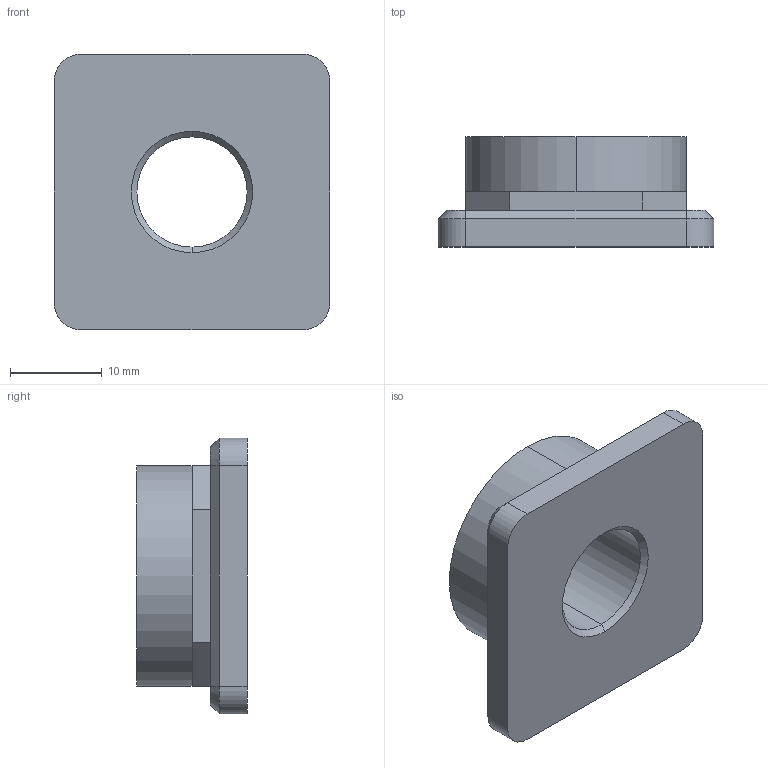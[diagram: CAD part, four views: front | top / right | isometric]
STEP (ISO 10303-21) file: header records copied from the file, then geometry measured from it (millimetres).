
FILE_DESCRIPTION (( 'STEP AP203' ), '1' );
FILE_NAME ('34670.W0032.step', '2017-06-26T08:12:43', ( 'User' ), ( '' ), 'SwSTEP 2.0', 'SolidWorks 2009', '' );
FILE_SCHEMA (( 'CONFIG_CONTROL_DESIGN' ));
Length unit declared in the file: millimetre
Products named in the file (1): 34670.W0032
Bounding box: 30 x 12 x 30 mm (x, y, z)
Volume: 5920.1 mm3; surface area: 3000.7 mm2
Topology: 1 solids, 1 shells, 39 faces, 90 edges, 54 vertices
Faces by surface type: plane 23, cone 8, cylinder 8
Entity records: 1167 total; most frequent: DIRECTION 196, CARTESIAN_POINT 184, ORIENTED_EDGE 180, EDGE_CURVE 90, AXIS2_PLACEMENT_3D 66, VECTOR 64, LINE 64, VERTEX_POINT 54
